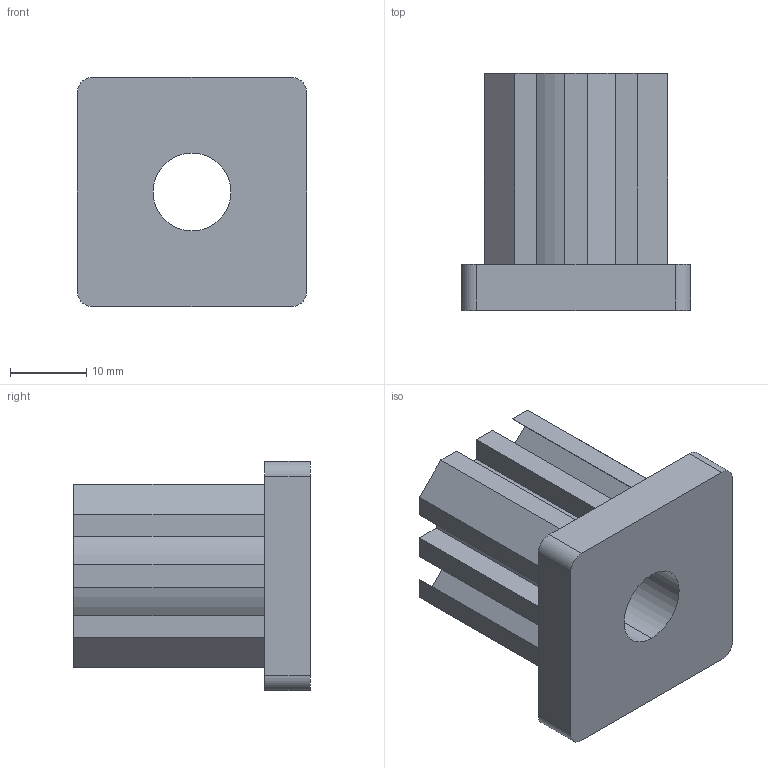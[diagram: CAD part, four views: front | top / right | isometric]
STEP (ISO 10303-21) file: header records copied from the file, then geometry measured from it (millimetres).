
FILE_DESCRIPTION (( 'STEP AP203' ), '1' );
FILE_NAME ('C030209.STEP', '2018-02-27T09:51:10', ( '' ), ( '' ), 'SwSTEP 2.0', 'SolidWorks 2016', '' );
FILE_SCHEMA (( 'CONFIG_CONTROL_DESIGN' ));
Length unit declared in the file: millimetre
Products named in the file (1): C030209
Bounding box: 30 x 31 x 30 mm (x, y, z)
Volume: 12607.1 mm3; surface area: 7509.2 mm2
Topology: 1 solids, 1 shells, 61 faces, 174 edges, 116 vertices
Faces by surface type: plane 47, cylinder 14
Entity records: 2057 total; most frequent: CARTESIAN_POINT 352, ORIENTED_EDGE 348, DIRECTION 326, EDGE_CURVE 174, VECTOR 146, LINE 146, VERTEX_POINT 116, AXIS2_PLACEMENT_3D 90
